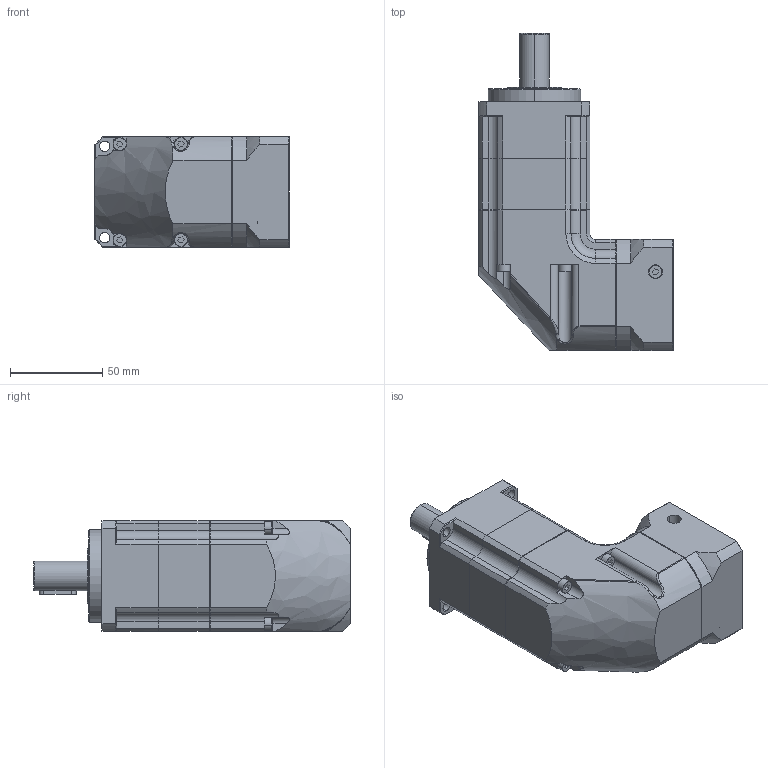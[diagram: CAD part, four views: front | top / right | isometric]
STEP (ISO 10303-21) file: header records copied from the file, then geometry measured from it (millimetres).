
FILE_DESCRIPTION (( 'STEP AP214' ), '1' );
FILE_NAME ('PXR60-L2.STEP', '2019-12-11T00:57:43', ( '微软用户' ), ( '微软中国' ), 'SwSTEP 2.0', 'SolidWorks 2014', '' );
FILE_SCHEMA (( 'AUTOMOTIVE_DESIGN' ));
Length unit declared in the file: millimetre
Products named in the file (9): GB／T70．1-2000内六角圆柱头螺钉M4×60_二级用; PXR60俋倛芞喘眊; PX60外形图二级齿圈_72T; 邧埴瑩 5x5x20; 囀鞠褒蹟佪-M4℅12; PD60俋倛芞坶踡遠-; PDR60俋倛芞蟀諉啣-; PX60俋倛芞奻裔啣_72T; PXR60-L2
Assembly tree (11 placements, depth 2):
  PXR60-L2
    PX60俋倛芞奻裔啣_72T
    PDR60俋倛芞蟀諉啣-
    PD60俋倛芞坶踡遠-
    囀鞠褒蹟佪-M4℅12
    邧埴瑩 5x5x20
    PX60外形图二级齿圈_72T
    PXR60俋倛芞喘眊
    GB／T70．1-2000内六角圆柱头螺钉M4×60_二级用  x4
Bounding box: 105 x 171.4 x 60 mm (x, y, z)
Volume: 525221.5 mm3; surface area: 88781.5 mm2
Topology: 11 solids, 11 shells, 533 faces, 1290 edges, 795 vertices
Faces by surface type: cylinder 202, plane 196, cone 86, torus 32, bspline 13, sphere 4
Entity records: 15707 total; most frequent: CARTESIAN_POINT 3861, DIRECTION 2441, ORIENTED_EDGE 2272, EDGE_CURVE 1136, AXIS2_PLACEMENT_3D 949, VERTEX_POINT 717, VECTOR 543, LINE 543
